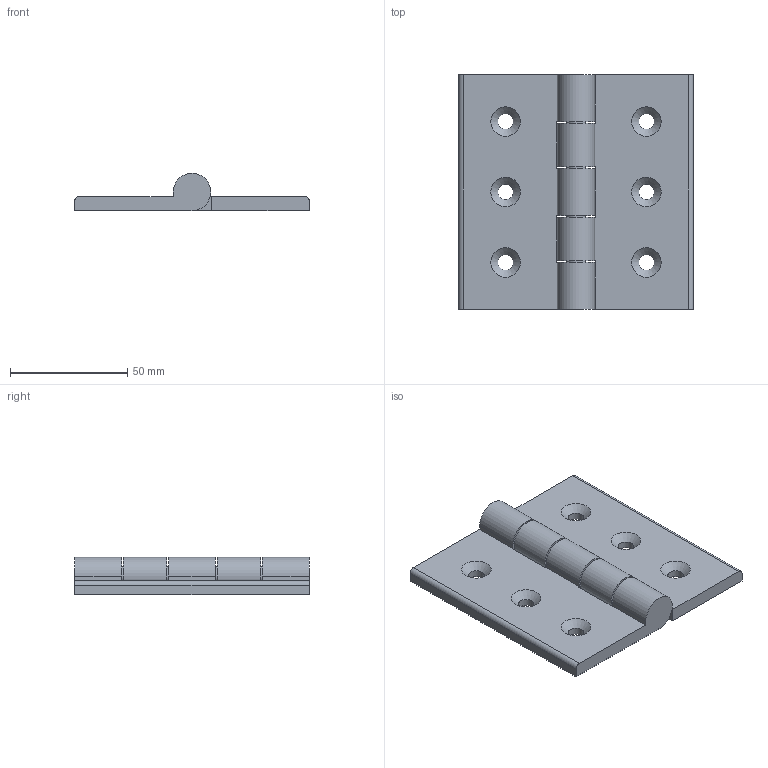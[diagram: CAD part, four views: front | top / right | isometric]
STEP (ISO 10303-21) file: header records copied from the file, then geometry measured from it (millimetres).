
FILE_DESCRIPTION(/* description */ ('STEP AP203'),/* implementation_level */ '2;1');
FILE_NAME(/* name */ 'HHSZ100',/* time_stamp */ '2023-11-20T08:18:05+01:00',/* author */ ('License CC BY-ND 4.0'),/* organization */ ('CADENAS'),/* preprocessor_version */ 'ST-DEVELOPER v19.3',/* originating_system */ 'PARTsolutions',/* authorisation */ ' ');
FILE_SCHEMA (('CONFIG_CONTROL_DESIGN'));
Length unit declared in the file: millimetre
Products named in the file (4): HHSZ100; HHSZ100_b; HHSZ100_c; HHSZ100_a
Assembly tree (3 placements, depth 2):
  HHSZ100
    HHSZ100_b
    HHSZ100_c
    HHSZ100_a
Bounding box: 100 x 100 x 16 mm (x, y, z)
Volume: 69101.1 mm3; surface area: 30723.7 mm2
Topology: 3 solids, 3 shells, 57 faces, 155 edges, 102 vertices
Faces by surface type: plane 28, cylinder 19, cone 6, sphere 4
Full cylindrical faces by diameter (mm): 6.6 x6, 8 x6
Entity records: 1738 total; most frequent: DIRECTION 289, CARTESIAN_POINT 276, ORIENTED_EDGE 246, EDGE_CURVE 123, AXIS2_PLACEMENT_3D 105, EDGE_LOOP 95, FACE_BOUND 95, VERTEX_POINT 92
